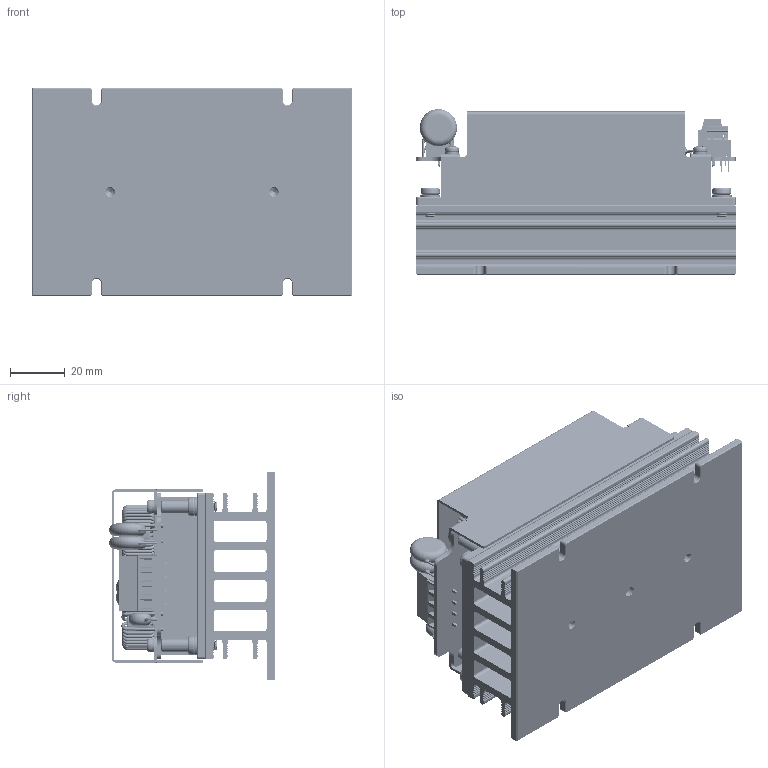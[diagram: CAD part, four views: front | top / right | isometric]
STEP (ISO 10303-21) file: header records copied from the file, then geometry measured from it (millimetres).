
FILE_DESCRIPTION (( 'STEP AP203' ), '1' );
FILE_NAME ('CQB50W8 CMFD+HS成品圖2025.01.02.STEP', '2025-01-03T09:16:46', ( '' ), ( '' ), 'SwSTEP 2.0', 'SolidWorks 2020', '' );
FILE_SCHEMA (( 'CONFIG_CONTROL_DESIGN' ));
Products named in the file (1): CQB50W8 CMFD+HS成品圖2025.01.02
Bounding box: 116.84 x 60.59 x 76.2 mm (x, y, z)
Volume: 176953.2 mm3; surface area: 124106 mm2
Topology: 85 solids, 91 shells, 3213 faces, 8315 edges, 5294 vertices
Faces by surface type: plane 1550, cylinder 845, bspline 380, torus 357, cone 80, sphere 1
Full cylindrical faces by diameter (mm): 0.6 x8, 0.8 x14, 1.02 x12, 1.15 x332, 1.5 x6, 2.2 x4, 2.5 x28, 2.8 x9, 3 x4, 3.2 x9, 3.25 x1, 3.5 x4, 3.76 x2, 3.8 x8, 3.9 x20, 4 x9, 4.2 x4, 4.5 x6, 4.7 x4, 5 x6, 8 x1, 8.2 x1, 9 x1, 12.5 x2, 12.8 x2, 17.8 x2
Entity records: 157478 total; most frequent: CARTESIAN_POINT 87834, ORIENTED_EDGE 14284, DIRECTION 12913, EDGE_CURVE 7142, VERTEX_POINT 5024, AXIS2_PLACEMENT_3D 4476, EDGE_LOOP 4278, VECTOR 3961
